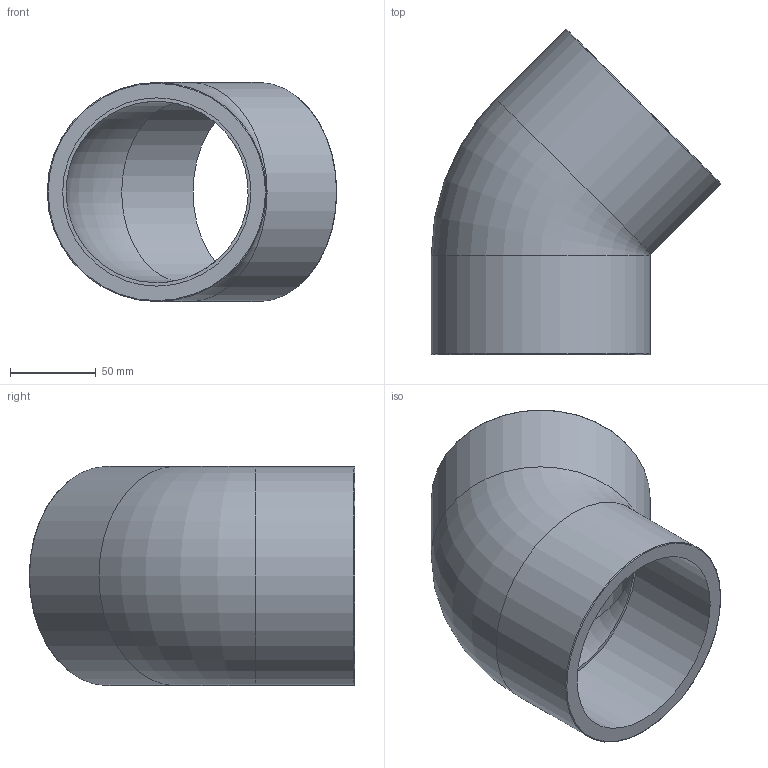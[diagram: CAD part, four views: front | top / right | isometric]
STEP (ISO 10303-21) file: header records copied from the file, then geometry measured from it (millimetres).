
FILE_DESCRIPTION(/* description */ ('PVC gomito a 45° incollaggio metrico'),/* implementation_level */ '2;1');
FILE_NAME(/* name */ 'C:\Users\POLYPIPE\Desktop\DATASET INVENTOR\LIBRERIA EFFAST\RACCORDI 3DxWEB\RDR\3D_RDRGYD\3D_RDRGYD1100.stp',/* time_stamp */ '2018-01-19T14:34:56+01:00',/* author */ ('POLYPIPE'),/* organization */ ('Polypipe Italia s.r.l.'),/* preprocessor_version */ 'ST-DEVELOPER v16.1',/* originating_system */ 'Autodesk Inventor 2016',/* authorisation */ '');
FILE_SCHEMA (('CONFIG_CONTROL_DESIGN'));
Length unit declared in the file: millimetre
Products named in the file (1): 3D_RDRGYD
Bounding box: 169.15 x 190.15 x 128 mm (x, y, z)
Volume: 593190.1 mm3; surface area: 132325.5 mm2
Topology: 1 solids, 1 shells, 12 faces, 20 edges, 12 vertices
Faces by surface type: torus 4, cylinder 4, plane 4
Full cylindrical faces by diameter (mm): 110 x2, 128 x2
Entity records: 396 total; most frequent: CARTESIAN_POINT 167, DIRECTION 46, EDGE_LOOP 24, ORIENTED_EDGE 24, AXIS2_PLACEMENT_3D 23, FACE_BOUND 12, FACE_OUTER_BOUND 12, VERTEX_POINT 12
